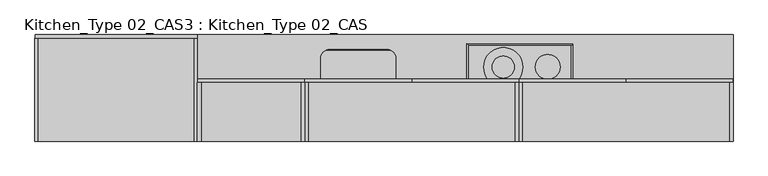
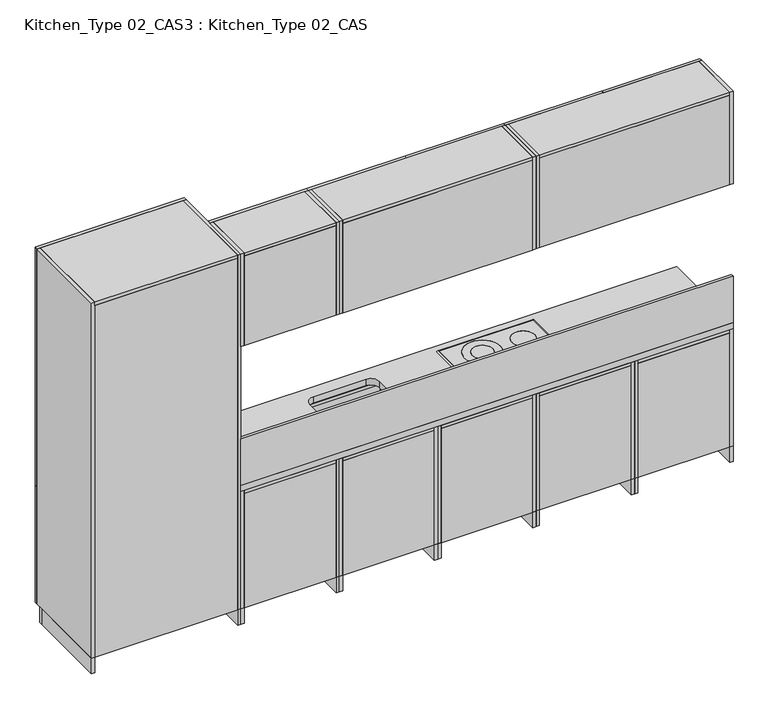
"""IFC4 building model written with IfcOpenShell, lengths in millimetres: furniture geometry, Kitchen_Type 02_CAS3 : Kitchen_Type 02_CAS."""

from ifc_helpers import new_model, si_unit, point, frame, frame_2d, origin, origin_with_axes, place, context, project, spatial, polyline, circle_curve, ellipse_curve, trimmed, segment, composite_curve, outline, extrude, source, transform, mapped, element, save
from ifc_brep_helpers import plane_surface, cylinder_surface, advanced_brep


def kitchen_type_02_cas3_kitchen_type_02_cas_20b75632(model_context):
    return source(origin(), model_context, "Body", "SolidModel", [
        advanced_brep(
        [(3018.8951127, -480.560876, 908.0), (2438.8951127, -480.560876, 908.0), (2430.8951127, -488.560876, 900.0), (3026.8951127, -488.560876, 900.0), (3018.8951127, -480.560876, 900.0), (2438.8951127, -480.560876, 900.0), (2438.8951127, -30.560876, 908.0), (2430.8951127, -22.560876, 900.0), (2438.8951127, -30.560876, 900.0), (3018.8951127, -30.560876, 908.0), (3026.8951127, -22.560876, 900.0), (3018.8951127, -30.560876, 900.0)],
        [
            (0, 1),
            (1, 2, ellipse_curve(frame((2438.8951127, -480.560876, 900.0), z_axis=(0.7071067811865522, -0.7071067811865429, 0.0), x_axis=(0.7071067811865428, 0.7071067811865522, 0.0)), 11.3137085, 8.0)),
            (2, 3),
            (3, 0, ellipse_curve(frame((3018.8951127, -480.560876, 900.0), z_axis=(-0.707106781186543, -0.7071067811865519, 0.0), x_axis=(0.7071067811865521, -0.707106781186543, 0.0)), 11.3137085, 8.0)),
            (4, 5),
            (5, 1),
            (0, 4),
            (1, 6),
            (6, 7, ellipse_curve(frame((2438.8951127, -30.560876, 900.0), z_axis=(-0.7071067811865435, -0.7071067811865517, 0.0), x_axis=(0.7071067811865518, -0.7071067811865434, 0.0)), 11.3137085, 8.0)),
            (7, 2),
            (5, 8),
            (8, 6),
            (6, 9),
            (9, 10, ellipse_curve(frame((3018.8951127, -30.560876, 900.0), z_axis=(-0.7071067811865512, 0.7071067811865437, 0.0), x_axis=(-0.7071067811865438, -0.7071067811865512, 0.0)), 11.3137085, 8.0)),
            (10, 7),
            (8, 11),
            (11, 9),
            (10, 3),
            (4, 11),
            (9, 0),
        ],
        [
            cylinder_surface(frame((3018.8951127, -480.560876, 900.0), z_axis=(1.0, 0.0, 0.0), x_axis=(0.0, -1.0, 0.0)), 8.0),
            plane_surface(frame((3018.8951127, -480.560876, 908.0), z_axis=(0.0, 1.0, 0.0), x_axis=(-1.0, 0.0, 0.0))),
            cylinder_surface(frame((2438.8951127, -480.560876, 900.0), z_axis=(0.0, -1.0, 0.0), x_axis=(-1.0, 0.0, 0.0)), 8.0),
            plane_surface(frame((2438.8951127, -480.560876, 908.0), z_axis=(1.0, 0.0, 0.0), x_axis=(0.0, 1.0, 0.0))),
            cylinder_surface(frame((2438.8951127, -30.560876, 900.0), z_axis=(-1.0, 0.0, 0.0), x_axis=(0.0, 1.0, 0.0)), 8.0),
            plane_surface(frame((2438.8951127, -30.560876, 908.0), z_axis=(0.0, -1.0, 0.0), x_axis=(1.0, 0.0, 0.0))),
            plane_surface(frame((3018.8951127, -30.560876, 900.0), z_axis=(0.0, 0.0, -1.0), x_axis=(0.0, -1.0, 0.0))),
            cylinder_surface(frame((3018.8951127, -30.560876, 900.0), z_axis=(0.0, 1.0, 0.0), x_axis=(1.0, 0.0, 0.0)), 8.0),
            plane_surface(frame((3018.8951127, -30.560876, 908.0), z_axis=(-1.0, 0.0, 0.0), x_axis=(0.0, -1.0, 0.0))),
        ],
        [
            (0, [[1, 2, 3, 4]]),
            (1, [[5, 6, -1, 7]]),
            (2, [[8, 9, 10, -2]]),
            (3, [[11, 12, -8, -6]]),
            (4, [[13, 14, 15, -9]]),
            (5, [[16, 17, -13, -12]]),
            (6, [[-3, -10, -15, 18], [-5, 19, -16, -11]]),
            (7, [[20, -4, -18, -14]]),
            (8, [[-19, -7, -20, -17]]),
        ],
    ),
        extrude(outline(polyline([(2438.8951127, -30.560876), (3018.8951127, -30.560876), (3018.8951127, -480.560876), (2438.8951127, -480.560876), (2438.8951127, -30.560876)]), holes=[composite_curve([segment(trimmed(circle_curve(frame_2d((2886.3951127, -153.060876)), 70.0), [point((2956.3951127, -153.060876))], [point((2816.3951127, -153.060876))], True, "CARTESIAN"), True, "CONTINUOUS"), segment(trimmed(circle_curve(frame_2d((2886.3951127, -153.060876)), 70.0), [point((2816.3951127, -153.060876))], [point((2956.3951127, -153.060876))], True, "CARTESIAN"), True, "CONTINUOUS")], self_intersect=False), composite_curve([segment(trimmed(circle_curve(frame_2d((2886.3951127, -363.060876)), 110.0), [point((2996.3951127, -363.060876))], [point((2776.3951127, -363.060876))], True, "CARTESIAN"), True, "CONTINUOUS"), segment(trimmed(circle_curve(frame_2d((2886.3951127, -363.060876)), 110.0), [point((2776.3951127, -363.060876))], [point((2996.3951127, -363.060876))], True, "CARTESIAN"), True, "CONTINUOUS")], self_intersect=False), composite_curve([segment(trimmed(circle_curve(frame_2d((2636.3951127, -153.060876)), 110.0), [point((2746.3951127, -153.060876))], [point((2526.3951127, -153.060876))], True, "CARTESIAN"), True, "CONTINUOUS"), segment(trimmed(circle_curve(frame_2d((2636.3951127, -153.060876)), 110.0), [point((2526.3951127, -153.060876))], [point((2746.3951127, -153.060876))], True, "CARTESIAN"), True, "CONTINUOUS")], self_intersect=False), composite_curve([segment(trimmed(circle_curve(frame_2d((2606.3951127, -363.060876)), 70.0), [point((2676.3951127, -363.060876))], [point((2536.3951127, -363.060876))], True, "CARTESIAN"), True, "CONTINUOUS"), segment(trimmed(circle_curve(frame_2d((2606.3951127, -363.060876)), 70.0), [point((2536.3951127, -363.060876))], [point((2676.3951127, -363.060876))], True, "CARTESIAN"), True, "CONTINUOUS")], self_intersect=False)]), frame((0.0, 0.0, 900.0), z_axis=(0.0, 0.0, 1.0), x_axis=(1.0, 0.0, 0.0)), (0.0, 0.0, 1.0), 8.0),
        extrude(outline(composite_curve([segment(trimmed(circle_curve(frame_2d((2886.3951127, -363.060876)), 62.5), [point((2948.8951127, -363.060876))], [point((2823.8951127, -363.060876))], False, "CARTESIAN"), True, "CONTINUOUS"), segment(trimmed(circle_curve(frame_2d((2886.3951127, -363.060876)), 62.5), [point((2823.8951127, -363.060876))], [point((2948.8951127, -363.060876))], False, "CARTESIAN"), True, "CONTINUOUS")], self_intersect=False)), frame((0.0, 0.0, 900.0), z_axis=(0.0, 0.0, 1.0), x_axis=(1.0, 0.0, 0.0)), (0.0, 0.0, 1.0), 8.0),
        extrude(outline(composite_curve([segment(trimmed(circle_curve(frame_2d((2636.3951127, -153.060876)), 62.5), [point((2698.8951127, -153.060876))], [point((2573.8951127, -153.060876))], False, "CARTESIAN"), True, "CONTINUOUS"), segment(trimmed(circle_curve(frame_2d((2636.3951127, -153.060876)), 62.5), [point((2573.8951127, -153.060876))], [point((2698.8951127, -153.060876))], False, "CARTESIAN"), True, "CONTINUOUS")], self_intersect=False)), frame((0.0, 0.0, 900.0), z_axis=(0.0, 0.0, 1.0), x_axis=(1.0, 0.0, 0.0)), (0.0, 0.0, 1.0), 8.0),
        extrude(outline(composite_curve([segment(trimmed(circle_curve(frame_2d((2886.3951127, -153.060876)), 70.0), [point((2816.3951127, -153.060876))], [point((2956.3951127, -153.060876))], False, "CARTESIAN"), True, "CONTINUOUS"), segment(trimmed(circle_curve(frame_2d((2886.3951127, -153.060876)), 70.0), [point((2956.3951127, -153.060876))], [point((2816.3951127, -153.060876))], False, "CARTESIAN"), True, "CONTINUOUS")], self_intersect=False)), frame((0.0, 0.0, 894.0), z_axis=(0.0, 0.0, 1.0), x_axis=(1.0, 0.0, 0.0)), (0.0, 0.0, 1.0), 14.0),
        extrude(outline(composite_curve([segment(trimmed(circle_curve(frame_2d((2886.3951127, -363.060876)), 110.0), [point((2776.3951127, -363.060876))], [point((2996.3951127, -363.060876))], False, "CARTESIAN"), True, "CONTINUOUS"), segment(trimmed(circle_curve(frame_2d((2886.3951127, -363.060876)), 110.0), [point((2996.3951127, -363.060876))], [point((2776.3951127, -363.060876))], False, "CARTESIAN"), True, "CONTINUOUS")], self_intersect=False), holes=[composite_curve([segment(trimmed(circle_curve(frame_2d((2886.3951127, -363.060876)), 62.5), [point((2823.8951127, -363.060876))], [point((2948.8951127, -363.060876))], True, "CARTESIAN"), True, "CONTINUOUS"), segment(trimmed(circle_curve(frame_2d((2886.3951127, -363.060876)), 62.5), [point((2948.8951127, -363.060876))], [point((2823.8951127, -363.060876))], True, "CARTESIAN"), True, "CONTINUOUS")], self_intersect=False)]), frame((0.0, 0.0, 894.0), z_axis=(0.0, 0.0, 1.0), x_axis=(1.0, 0.0, 0.0)), (0.0, 0.0, 1.0), 14.0),
        extrude(outline(composite_curve([segment(trimmed(circle_curve(frame_2d((2636.3951127, -153.060876)), 110.0), [point((2526.3951127, -153.060876))], [point((2746.3951127, -153.060876))], False, "CARTESIAN"), True, "CONTINUOUS"), segment(trimmed(circle_curve(frame_2d((2636.3951127, -153.060876)), 110.0), [point((2746.3951127, -153.060876))], [point((2526.3951127, -153.060876))], False, "CARTESIAN"), True, "CONTINUOUS")], self_intersect=False), holes=[composite_curve([segment(trimmed(circle_curve(frame_2d((2636.3951127, -153.060876)), 62.5), [point((2573.8951127, -153.060876))], [point((2698.8951127, -153.060876))], True, "CARTESIAN"), True, "CONTINUOUS"), segment(trimmed(circle_curve(frame_2d((2636.3951127, -153.060876)), 62.5), [point((2698.8951127, -153.060876))], [point((2573.8951127, -153.060876))], True, "CARTESIAN"), True, "CONTINUOUS")], self_intersect=False)]), frame((0.0, 0.0, 894.0), z_axis=(0.0, 0.0, 1.0), x_axis=(1.0, 0.0, 0.0)), (0.0, 0.0, 1.0), 14.0),
        extrude(outline(composite_curve([segment(trimmed(circle_curve(frame_2d((2606.3951127, -363.060876)), 70.0), [point((2536.3951127, -363.060876))], [point((2676.3951127, -363.060876))], False, "CARTESIAN"), True, "CONTINUOUS"), segment(trimmed(circle_curve(frame_2d((2606.3951127, -363.060876)), 70.0), [point((2676.3951127, -363.060876))], [point((2536.3951127, -363.060876))], False, "CARTESIAN"), True, "CONTINUOUS")], self_intersect=False)), frame((0.0, 0.0, 894.0), z_axis=(0.0, 0.0, 1.0), x_axis=(1.0, 0.0, 0.0)), (0.0, 0.0, 1.0), 14.0),
        extrude(outline(polyline([(1517.0, -221.960876), (1517.0, -241.960876), (916.0, -241.960876), (916.0, -221.960876), (1517.0, -221.960876)])), frame((0.0, 0.0, 1800.0), z_axis=(0.0, 0.0, 1.0), x_axis=(1.0, 0.0, 0.0)), (0.0, 0.0, 1.0), 599.0),
        extrude(outline(polyline([(1498.0, -571.960876), (1498.0, -241.960876), (1518.0, -241.960876), (1518.0, -571.960876), (1498.0, -571.960876)])), frame((0.0, 0.0, 1800.0), z_axis=(0.0, 0.0, 1.0), x_axis=(1.0, 0.0, 0.0)), (0.0, 0.0, 1.0), 600.0),
        extrude(outline(polyline([(915.0, -571.960876), (915.0, -241.960876), (935.0, -241.960876), (935.0, -571.960876), (915.0, -571.960876)])), frame((0.0, 0.0, 1800.0), z_axis=(0.0, 0.0, 1.0), x_axis=(1.0, 0.0, 0.0)), (0.0, 0.0, 1.0), 600.0),
        extrude(outline(polyline([(1498.0, -551.960876), (1498.0, -571.960876), (935.0, -571.960876), (935.0, -551.960876), (1498.0, -551.960876)])), frame((0.0, 0.0, 1800.0), z_axis=(0.0, 0.0, 1.0), x_axis=(1.0, 0.0, 0.0)), (0.0, 0.0, 1.0), 580.0),
        extrude(outline(polyline([(1498.0, -551.960876), (935.0, -551.960876), (935.0, -241.960876), (1498.0, -241.960876), (1498.0, -551.960876)])), frame((0.0, 0.0, 1800.0), z_axis=(0.0, 0.0, 1.0), x_axis=(1.0, 0.0, 0.0)), (0.0, 0.0, 1.0), 20.0),
        extrude(outline(polyline([(1498.0, -571.960876), (935.0, -571.960876), (935.0, -241.960876), (1498.0, -241.960876), (1498.0, -571.960876)])), frame((0.0, 0.0, 2380.0), z_axis=(0.0, 0.0, 1.0), x_axis=(1.0, 0.0, 0.0)), (0.0, 0.0, 1.0), 20.0),
        extrude(outline(polyline([(1519.0, -221.960876), (2120.0, -221.960876), (2120.0, -241.960876), (1519.0, -241.960876), (1519.0, -221.960876)])), frame((0.0, 0.0, 1800.0), z_axis=(0.0, 0.0, 1.0), x_axis=(1.0, 0.0, 0.0)), (0.0, 0.0, 1.0), 599.0),
        extrude(outline(polyline([(2723.0, -221.960876), (2723.0, -241.960876), (2122.0, -241.960876), (2122.0, -221.960876), (2723.0, -221.960876)])), frame((0.0, 0.0, 1800.0), z_axis=(0.0, 0.0, 1.0), x_axis=(1.0, 0.0, 0.0)), (0.0, 0.0, 1.0), 599.0),
        extrude(outline(polyline([(2704.0, -571.960876), (2704.0, -241.960876), (2724.0, -241.960876), (2724.0, -571.960876), (2704.0, -571.960876)])), frame((0.0, 0.0, 1800.0), z_axis=(0.0, 0.0, 1.0), x_axis=(1.0, 0.0, 0.0)), (0.0, 0.0, 1.0), 600.0),
        extrude(outline(polyline([(1518.0, -571.960876), (1518.0, -241.960876), (1538.0, -241.960876), (1538.0, -571.960876), (1518.0, -571.960876)])), frame((0.0, 0.0, 1800.0), z_axis=(0.0, 0.0, 1.0), x_axis=(1.0, 0.0, 0.0)), (0.0, 0.0, 1.0), 600.0),
        extrude(outline(polyline([(2704.0, -551.960876), (2704.0, -571.960876), (1538.0, -571.960876), (1538.0, -551.960876), (2704.0, -551.960876)])), frame((0.0, 0.0, 1800.0), z_axis=(0.0, 0.0, 1.0), x_axis=(1.0, 0.0, 0.0)), (0.0, 0.0, 1.0), 580.0),
        extrude(outline(polyline([(2704.0, -551.960876), (1538.0, -551.960876), (1538.0, -241.960876), (2704.0, -241.960876), (2704.0, -551.960876)])), frame((0.0, 0.0, 1800.0), z_axis=(0.0, 0.0, 1.0), x_axis=(1.0, 0.0, 0.0)), (0.0, 0.0, 1.0), 20.0),
        extrude(outline(polyline([(2704.0, -571.960876), (1538.0, -571.960876), (1538.0, -241.960876), (2704.0, -241.960876), (2704.0, -571.960876)])), frame((0.0, 0.0, 2380.0), z_axis=(0.0, 0.0, 1.0), x_axis=(1.0, 0.0, 0.0)), (0.0, 0.0, 1.0), 20.0),
        extrude(outline(polyline([(2754.0, -551.960876), (2754.0, 8.039124), (3297.0, 8.039124), (3297.0, -551.960876), (2754.0, -551.960876)])), frame((0.0, 0.0, 390.0), z_axis=(0.0, 0.0, 1.0), x_axis=(1.0, 0.0, 0.0)), (0.0, 0.0, 1.0), 20.0),
        extrude(outline(polyline([(2725.0, 28.039124), (3326.0, 28.039124), (3326.0, 8.039124), (2725.0, 8.039124), (2725.0, 28.039124)])), frame((0.0, 0.0, 100.0), z_axis=(0.0, 0.0, 1.0), x_axis=(1.0, 0.0, 0.0)), (0.0, 0.0, 1.0), 550.0),
        extrude(outline(polyline([(2725.0, 28.039124), (3326.0, 28.039124), (3326.0, 8.039124), (2725.0, 8.039124), (2725.0, 28.039124)])), frame((0.0, 0.0, 650.0), z_axis=(0.0, 0.0, 1.0), x_axis=(1.0, 0.0, 0.0)), (0.0, 0.0, 1.0), 200.0),
        extrude(outline(polyline([(3327.0, -41.960876), (3327.0, -571.960876), (3307.0, -571.960876), (3307.0, -61.960876), (2744.0, -61.960876), (2744.0, -571.960876), (2724.0, -571.960876), (2724.0, -41.960876), (3327.0, -41.960876)])), origin_with_axes(), (0.0, 0.0, 1.0), 100.0),
        extrude(outline(polyline([(2744.0, -571.960876), (2724.0, -571.960876), (2724.0, 8.039124), (2744.0, 8.039124), (2744.0, -571.960876)])), frame((0.0, 0.0, 100.0), z_axis=(0.0, 0.0, 1.0), x_axis=(1.0, 0.0, 0.0)), (0.0, 0.0, 1.0), 760.0),
        extrude(outline(polyline([(3327.0, -571.960876), (3307.0, -571.960876), (3307.0, 8.039124), (3327.0, 8.039124), (3327.0, -571.960876)])), frame((0.0, 0.0, 100.0), z_axis=(0.0, 0.0, 1.0), x_axis=(1.0, 0.0, 0.0)), (0.0, 0.0, 1.0), 760.0),
        extrude(outline(polyline([(2744.0, -551.960876), (3307.0, -551.960876), (3307.0, -571.960876), (2744.0, -571.960876), (2744.0, -551.960876)])), frame((0.0, 0.0, 100.0), z_axis=(0.0, 0.0, 1.0), x_axis=(1.0, 0.0, 0.0)), (0.0, 0.0, 1.0), 740.0),
        extrude(outline(polyline([(2744.0, -551.960876), (2744.0, 8.039124), (3307.0, 8.039124), (3307.0, -551.960876), (2744.0, -551.960876)])), frame((0.0, 0.0, 100.0), z_axis=(0.0, 0.0, 1.0), x_axis=(1.0, 0.0, 0.0)), (0.0, 0.0, 1.0), 20.0),
        extrude(outline(polyline([(2744.0, -571.960876), (2744.0, -506.960876), (3307.0, -506.960876), (3307.0, -571.960876), (2744.0, -571.960876)])), frame((0.0, 0.0, 840.0), z_axis=(0.0, 0.0, 1.0), x_axis=(1.0, 0.0, 0.0)), (0.0, 0.0, 1.0), 20.0),
        extrude(outline(polyline([(3307.0, -56.960876), (2744.0, -56.960876), (2744.0, 8.039124), (3307.0, 8.039124), (3307.0, -56.960876)])), frame((0.0, 0.0, 840.0), z_axis=(0.0, 0.0, 1.0), x_axis=(1.0, 0.0, 0.0)), (0.0, 0.0, 1.0), 20.0),
        extrude(outline(polyline([(2725.0, -221.960876), (3326.0, -221.960876), (3326.0, -241.960876), (2725.0, -241.960876), (2725.0, -221.960876)])), frame((0.0, 0.0, 1800.0), z_axis=(0.0, 0.0, 1.0), x_axis=(1.0, 0.0, 0.0)), (0.0, 0.0, 1.0), 599.0),
        extrude(outline(polyline([(3929.0, -221.960876), (3929.0, -241.960876), (3328.0, -241.960876), (3328.0, -221.960876), (3929.0, -221.960876)])), frame((0.0, 0.0, 1800.0), z_axis=(0.0, 0.0, 1.0), x_axis=(1.0, 0.0, 0.0)), (0.0, 0.0, 1.0), 599.0),
        extrude(outline(polyline([(3910.0, -571.960876), (3910.0, -241.960876), (3930.0, -241.960876), (3930.0, -571.960876), (3910.0, -571.960876)])), frame((0.0, 0.0, 1800.0), z_axis=(0.0, 0.0, 1.0), x_axis=(1.0, 0.0, 0.0)), (0.0, 0.0, 1.0), 600.0),
        extrude(outline(polyline([(2724.0, -571.960876), (2724.0, -241.960876), (2744.0, -241.960876), (2744.0, -571.960876), (2724.0, -571.960876)])), frame((0.0, 0.0, 1800.0), z_axis=(0.0, 0.0, 1.0), x_axis=(1.0, 0.0, 0.0)), (0.0, 0.0, 1.0), 600.0),
        extrude(outline(polyline([(3910.0, -551.960876), (3910.0, -571.960876), (2744.0, -571.960876), (2744.0, -551.960876), (3910.0, -551.960876)])), frame((0.0, 0.0, 1800.0), z_axis=(0.0, 0.0, 1.0), x_axis=(1.0, 0.0, 0.0)), (0.0, 0.0, 1.0), 580.0),
        extrude(outline(polyline([(3910.0, -551.960876), (2744.0, -551.960876), (2744.0, -241.960876), (3910.0, -241.960876), (3910.0, -551.960876)])), frame((0.0, 0.0, 1800.0), z_axis=(0.0, 0.0, 1.0), x_axis=(1.0, 0.0, 0.0)), (0.0, 0.0, 1.0), 20.0),
        extrude(outline(polyline([(3910.0, -571.960876), (2744.0, -571.960876), (2744.0, -241.960876), (3910.0, -241.960876), (3910.0, -571.960876)])), frame((0.0, 0.0, 2380.0), z_axis=(0.0, 0.0, 1.0), x_axis=(1.0, 0.0, 0.0)), (0.0, 0.0, 1.0), 20.0),
        extrude(outline(polyline([(3930.0, -551.960876), (3930.0, -571.960876), (915.0, -571.960876), (915.0, -551.960876), (3930.0, -551.960876)])), frame((0.0, 0.0, 900.0), z_axis=(0.0, 0.0, 1.0), x_axis=(1.0, 0.0, 0.0)), (0.0, 0.0, 1.0), 300.0),
        extrude(outline(polyline([(3930.0, -21.960876), (3930.0, -41.960876), (0.0, -41.960876), (0.0, -21.960876), (3930.0, -21.960876)])), origin_with_axes(), (0.0, 0.0, 1.0), 100.0),
        extrude(outline(polyline([(3930.0, -571.960876), (915.0, -571.960876), (915.0, 28.039124), (3930.0, 28.039124), (3930.0, -571.960876)]), holes=[composite_curve([segment(polyline([(1658.4, -375.9014576), (1980.6, -375.9014576)]), True, "CONTINUOUS"), segment(trimmed(circle_curve(frame_2d((1980.6, -325.1014576)), 50.8), [point((1980.6, -375.9014576))], [point((2031.4, -325.1014576))], True, "CARTESIAN"), True, "CONTINUOUS"), segment(polyline([(2031.4, -325.1014576), (2031.4, -104.7303748)]), True, "CONTINUOUS"), segment(trimmed(circle_curve(frame_2d((1980.6, -104.7303748)), 50.8), [point((2031.4, -104.7303748))], [point((1980.6, -53.9303748))], True, "CARTESIAN"), True, "CONTINUOUS"), segment(polyline([(1980.6, -53.9303748), (1658.4, -53.9303748)]), True, "CONTINUOUS"), segment(trimmed(circle_curve(frame_2d((1658.4, -104.7303748)), 50.8), [point((1658.4, -53.9303748))], [point((1607.6, -104.7303748))], True, "CARTESIAN"), True, "CONTINUOUS"), segment(polyline([(1607.6, -104.7303748), (1607.6, -325.1014576)]), True, "CONTINUOUS"), segment(trimmed(circle_curve(frame_2d((1658.4, -325.1014576)), 50.8), [point((1607.6, -325.1014576))], [point((1658.4, -375.9014576))], True, "CARTESIAN"), True, "CONTINUOUS")], self_intersect=False)]), frame((0.0, 0.0, 860.0), z_axis=(0.0, 0.0, 1.0), x_axis=(1.0, 0.0, 0.0)), (0.0, 0.0, 1.0), 40.0),
        extrude(outline(polyline([(2120.0, 28.039124), (2120.0, 8.039124), (1519.0, 8.039124), (1519.0, 28.039124), (2120.0, 28.039124)])), frame((0.0, 0.0, 100.0), z_axis=(0.0, 0.0, 1.0), x_axis=(1.0, 0.0, 0.0)), (0.0, 0.0, 1.0), 750.0),
        extrude(outline(polyline([(1518.0, -41.960876), (2121.0, -41.960876), (2121.0, -571.960876), (2101.0, -571.960876), (2101.0, -61.960876), (1538.0, -61.960876), (1538.0, -571.960876), (1518.0, -571.960876), (1518.0, -41.960876)])), origin_with_axes(), (0.0, 0.0, 1.0), 100.0),
        extrude(outline(polyline([(2101.0, -571.960876), (2101.0, 8.039124), (2121.0, 8.039124), (2121.0, -571.960876), (2101.0, -571.960876)])), frame((0.0, 0.0, 100.0), z_axis=(0.0, 0.0, 1.0), x_axis=(1.0, 0.0, 0.0)), (0.0, 0.0, 1.0), 760.0),
        extrude(outline(polyline([(1518.0, -571.960876), (1518.0, 8.039124), (1538.0, 8.039124), (1538.0, -571.960876), (1518.0, -571.960876)])), frame((0.0, 0.0, 100.0), z_axis=(0.0, 0.0, 1.0), x_axis=(1.0, 0.0, 0.0)), (0.0, 0.0, 1.0), 760.0),
        extrude(outline(polyline([(2101.0, -551.960876), (2101.0, -571.960876), (1538.0, -571.960876), (1538.0, -551.960876), (2101.0, -551.960876)])), frame((0.0, 0.0, 100.0), z_axis=(0.0, 0.0, 1.0), x_axis=(1.0, 0.0, 0.0)), (0.0, 0.0, 1.0), 740.0),
        extrude(outline(polyline([(2101.0, -551.960876), (1538.0, -551.960876), (1538.0, 8.039124), (2101.0, 8.039124), (2101.0, -551.960876)])), frame((0.0, 0.0, 100.0), z_axis=(0.0, 0.0, 1.0), x_axis=(1.0, 0.0, 0.0)), (0.0, 0.0, 1.0), 20.0),
        extrude(outline(polyline([(2101.0, -571.960876), (1538.0, -571.960876), (1538.0, -506.960876), (2101.0, -506.960876), (2101.0, -571.960876)])), frame((0.0, 0.0, 840.0), z_axis=(0.0, 0.0, 1.0), x_axis=(1.0, 0.0, 0.0)), (0.0, 0.0, 1.0), 20.0),
        extrude(outline(polyline([(1538.0, -56.960876), (1538.0, 8.039124), (2101.0, 8.039124), (2101.0, -56.960876), (1538.0, -56.960876)])), frame((0.0, 0.0, 840.0), z_axis=(0.0, 0.0, 1.0), x_axis=(1.0, 0.0, 0.0)), (0.0, 0.0, 1.0), 20.0),
        extrude(outline(polyline([(1517.0, 28.039124), (1517.0, 8.039124), (916.0, 8.039124), (916.0, 28.039124), (1517.0, 28.039124)])), frame((0.0, 0.0, 100.0), z_axis=(0.0, 0.0, 1.0), x_axis=(1.0, 0.0, 0.0)), (0.0, 0.0, 1.0), 750.0),
        extrude(outline(polyline([(915.0, -41.960876), (1518.0, -41.960876), (1518.0, -571.960876), (1498.0, -571.960876), (1498.0, -61.960876), (935.0, -61.960876), (935.0, -571.960876), (915.0, -571.960876), (915.0, -41.960876)])), origin_with_axes(), (0.0, 0.0, 1.0), 100.0),
        extrude(outline(polyline([(1498.0, -551.960876), (935.0, -551.960876), (935.0, 8.039124), (1498.0, 8.039124), (1498.0, -551.960876)])), frame((0.0, 0.0, 100.0), z_axis=(0.0, 0.0, 1.0), x_axis=(1.0, 0.0, 0.0)), (0.0, 0.0, 1.0), 20.0),
        extrude(outline(polyline([(1498.0, -571.960876), (935.0, -571.960876), (935.0, -506.960876), (1498.0, -506.960876), (1498.0, -571.960876)])), frame((0.0, 0.0, 840.0), z_axis=(0.0, 0.0, 1.0), x_axis=(1.0, 0.0, 0.0)), (0.0, 0.0, 1.0), 20.0),
        extrude(outline(polyline([(935.0, -56.960876), (935.0, 8.039124), (1498.0, 8.039124), (1498.0, -56.960876), (935.0, -56.960876)])), frame((0.0, 0.0, 840.0), z_axis=(0.0, 0.0, 1.0), x_axis=(1.0, 0.0, 0.0)), (0.0, 0.0, 1.0), 20.0),
        extrude(outline(polyline([(1498.0, -571.960876), (1498.0, 8.039124), (1518.0, 8.039124), (1518.0, -571.960876), (1498.0, -571.960876)])), frame((0.0, 0.0, 100.0), z_axis=(0.0, 0.0, 1.0), x_axis=(1.0, 0.0, 0.0)), (0.0, 0.0, 1.0), 760.0),
        extrude(outline(polyline([(915.0, -571.960876), (915.0, 8.039124), (935.0, 8.039124), (935.0, -571.960876), (915.0, -571.960876)])), frame((0.0, 0.0, 100.0), z_axis=(0.0, 0.0, 1.0), x_axis=(1.0, 0.0, 0.0)), (0.0, 0.0, 1.0), 760.0),
        extrude(outline(polyline([(1498.0, -551.960876), (1498.0, -571.960876), (935.0, -571.960876), (935.0, -551.960876), (1498.0, -551.960876)])), frame((0.0, 0.0, 100.0), z_axis=(0.0, 0.0, 1.0), x_axis=(1.0, 0.0, 0.0)), (0.0, 0.0, 1.0), 740.0),
        extrude(outline(polyline([(30.0, -551.960876), (30.0, 8.039124), (885.0, 8.039124), (885.0, -551.960876), (30.0, -551.960876)])), frame((0.0, 0.0, 1990.0), z_axis=(0.0, 0.0, 1.0), x_axis=(1.0, 0.0, 0.0)), (0.0, 0.0, 1.0), 20.0),
        extrude(outline(polyline([(30.0, -551.960876), (30.0, 8.039124), (885.0, 8.039124), (885.0, -551.960876), (30.0, -551.960876)])), frame((0.0, 0.0, 1690.0), z_axis=(0.0, 0.0, 1.0), x_axis=(1.0, 0.0, 0.0)), (0.0, 0.0, 1.0), 20.0),
        extrude(outline(polyline([(30.0, -551.960876), (30.0, 8.039124), (885.0, 8.039124), (885.0, -551.960876), (30.0, -551.960876)])), frame((0.0, 0.0, 1390.0), z_axis=(0.0, 0.0, 1.0), x_axis=(1.0, 0.0, 0.0)), (0.0, 0.0, 1.0), 20.0),
        extrude(outline(polyline([(30.0, -551.960876), (30.0, 8.039124), (885.0, 8.039124), (885.0, -551.960876), (30.0, -551.960876)])), frame((0.0, 0.0, 1090.0), z_axis=(0.0, 0.0, 1.0), x_axis=(1.0, 0.0, 0.0)), (0.0, 0.0, 1.0), 20.0),
        extrude(outline(polyline([(20.0, -551.960876), (20.0, 8.039124), (895.0, 8.039124), (895.0, -551.960876), (20.0, -551.960876)])), frame((0.0, 0.0, 790.0), z_axis=(0.0, 0.0, 1.0), x_axis=(1.0, 0.0, 0.0)), (0.0, 0.0, 1.0), 20.0),
        extrude(outline(polyline([(1.0, 28.039124), (914.0, 28.039124), (914.0, 8.039124), (1.0, 8.039124), (1.0, 28.039124)])), frame((0.0, 0.0, 860.0), z_axis=(0.0, 0.0, 1.0), x_axis=(1.0, 0.0, 0.0)), (0.0, 0.0, 1.0), 1540.0),
        extrude(outline(polyline([(1.0, 28.039124), (914.0, 28.039124), (914.0, 8.039124), (1.0, 8.039124), (1.0, 28.039124)])), frame((0.0, 0.0, 100.0), z_axis=(0.0, 0.0, 1.0), x_axis=(1.0, 0.0, 0.0)), (0.0, 0.0, 1.0), 760.0),
        extrude(outline(polyline([(915.0, -41.960876), (915.0, -571.960876), (895.0, -571.960876), (895.0, -61.960876), (20.0, -61.960876), (20.0, -571.960876), (0.0, -571.960876), (0.0, -41.960876), (915.0, -41.960876)])), origin_with_axes(), (0.0, 0.0, 1.0), 100.0),
        extrude(outline(polyline([(20.0, -551.960876), (20.0, 8.039124), (895.0, 8.039124), (895.0, -551.960876), (20.0, -551.960876)])), frame((0.0, 0.0, 100.0), z_axis=(0.0, 0.0, 1.0), x_axis=(1.0, 0.0, 0.0)), (0.0, 0.0, 1.0), 20.0),
        extrude(outline(polyline([(20.0, -571.960876), (20.0, 8.039124), (895.0, 8.039124), (895.0, -571.960876), (20.0, -571.960876)])), frame((0.0, 0.0, 2380.0), z_axis=(0.0, 0.0, 1.0), x_axis=(1.0, 0.0, 0.0)), (0.0, 0.0, 1.0), 20.0),
        extrude(outline(polyline([(20.0, -571.960876), (0.0, -571.960876), (0.0, 8.039124), (20.0, 8.039124), (20.0, -571.960876)])), frame((0.0, 0.0, 100.0), z_axis=(0.0, 0.0, 1.0), x_axis=(1.0, 0.0, 0.0)), (0.0, 0.0, 1.0), 2300.0),
        extrude(outline(polyline([(915.0, -571.960876), (895.0, -571.960876), (895.0, 8.039124), (915.0, 8.039124), (915.0, -571.960876)])), frame((0.0, 0.0, 100.0), z_axis=(0.0, 0.0, 1.0), x_axis=(1.0, 0.0, 0.0)), (0.0, 0.0, 1.0), 2300.0),
        extrude(outline(polyline([(20.0, -551.960876), (895.0, -551.960876), (895.0, -571.960876), (20.0, -571.960876), (20.0, -551.960876)])), frame((0.0, 0.0, 100.0), z_axis=(0.0, 0.0, 1.0), x_axis=(1.0, 0.0, 0.0)), (0.0, 0.0, 1.0), 2280.0),
        extrude(outline(polyline([(3929.0, 28.039124), (3929.0, 8.039124), (3328.0, 8.039124), (3328.0, 28.039124), (3929.0, 28.039124)])), frame((0.0, 0.0, 475.5), z_axis=(0.0, 0.0, 1.0), x_axis=(1.0, 0.0, 0.0)), (0.0, 0.0, 1.0), 374.5),
        extrude(outline(polyline([(3929.0, 28.039124), (3929.0, 8.039124), (3328.0, 8.039124), (3328.0, 28.039124), (3929.0, 28.039124)])), frame((0.0, 0.0, 100.0), z_axis=(0.0, 0.0, 1.0), x_axis=(1.0, 0.0, 0.0)), (0.0, 0.0, 1.0), 374.5),
        extrude(outline(polyline([(3327.0, -41.960876), (3930.0, -41.960876), (3930.0, -571.960876), (3910.0, -571.960876), (3910.0, -61.960876), (3347.0, -61.960876), (3347.0, -571.960876), (3327.0, -571.960876), (3327.0, -41.960876)])), origin_with_axes(), (0.0, 0.0, 1.0), 100.0),
        extrude(outline(polyline([(3910.0, -571.960876), (3910.0, 8.039124), (3930.0, 8.039124), (3930.0, -571.960876), (3910.0, -571.960876)])), frame((0.0, 0.0, 100.0), z_axis=(0.0, 0.0, 1.0), x_axis=(1.0, 0.0, 0.0)), (0.0, 0.0, 1.0), 760.0),
        extrude(outline(polyline([(3327.0, -571.960876), (3327.0, 8.039124), (3347.0, 8.039124), (3347.0, -571.960876), (3327.0, -571.960876)])), frame((0.0, 0.0, 100.0), z_axis=(0.0, 0.0, 1.0), x_axis=(1.0, 0.0, 0.0)), (0.0, 0.0, 1.0), 760.0),
        extrude(outline(polyline([(3910.0, -551.960876), (3910.0, -571.960876), (3347.0, -571.960876), (3347.0, -551.960876), (3910.0, -551.960876)])), frame((0.0, 0.0, 100.0), z_axis=(0.0, 0.0, 1.0), x_axis=(1.0, 0.0, 0.0)), (0.0, 0.0, 1.0), 740.0),
        extrude(outline(polyline([(3910.0, -551.960876), (3347.0, -551.960876), (3347.0, 8.039124), (3910.0, 8.039124), (3910.0, -551.960876)])), frame((0.0, 0.0, 100.0), z_axis=(0.0, 0.0, 1.0), x_axis=(1.0, 0.0, 0.0)), (0.0, 0.0, 1.0), 20.0),
        extrude(outline(polyline([(3910.0, -571.960876), (3347.0, -571.960876), (3347.0, -506.960876), (3910.0, -506.960876), (3910.0, -571.960876)])), frame((0.0, 0.0, 840.0), z_axis=(0.0, 0.0, 1.0), x_axis=(1.0, 0.0, 0.0)), (0.0, 0.0, 1.0), 20.0),
        extrude(outline(polyline([(3347.0, -56.960876), (3347.0, 8.039124), (3910.0, 8.039124), (3910.0, -56.960876), (3347.0, -56.960876)])), frame((0.0, 0.0, 840.0), z_axis=(0.0, 0.0, 1.0), x_axis=(1.0, 0.0, 0.0)), (0.0, 0.0, 1.0), 20.0),
        extrude(outline(polyline([(2723.0, 28.039124), (2723.0, 8.039124), (2122.0, 8.039124), (2122.0, 28.039124), (2723.0, 28.039124)])), frame((0.0, 0.0, 651.0), z_axis=(0.0, 0.0, 1.0), x_axis=(1.0, 0.0, 0.0)), (0.0, 0.0, 1.0), 199.0),
        extrude(outline(polyline([(2723.0, 28.039124), (2723.0, 8.039124), (2122.0, 8.039124), (2122.0, 28.039124), (2723.0, 28.039124)])), frame((0.0, 0.0, 375.5), z_axis=(0.0, 0.0, 1.0), x_axis=(1.0, 0.0, 0.0)), (0.0, 0.0, 1.0), 274.5),
        extrude(outline(polyline([(2723.0, 28.039124), (2723.0, 8.039124), (2122.0, 8.039124), (2122.0, 28.039124), (2723.0, 28.039124)])), frame((0.0, 0.0, 100.0), z_axis=(0.0, 0.0, 1.0), x_axis=(1.0, 0.0, 0.0)), (0.0, 0.0, 1.0), 274.5),
        extrude(outline(polyline([(2121.0, -41.960876), (2724.0, -41.960876), (2724.0, -571.960876), (2704.0, -571.960876), (2704.0, -61.960876), (2141.0, -61.960876), (2141.0, -571.960876), (2121.0, -571.960876), (2121.0, -41.960876)])), origin_with_axes(), (0.0, 0.0, 1.0), 100.0),
        extrude(outline(polyline([(2704.0, -571.960876), (2704.0, 8.039124), (2724.0, 8.039124), (2724.0, -571.960876), (2704.0, -571.960876)])), frame((0.0, 0.0, 100.0), z_axis=(0.0, 0.0, 1.0), x_axis=(1.0, 0.0, 0.0)), (0.0, 0.0, 1.0), 760.0),
        extrude(outline(polyline([(2121.0, -571.960876), (2121.0, 8.039124), (2141.0, 8.039124), (2141.0, -571.960876), (2121.0, -571.960876)])), frame((0.0, 0.0, 100.0), z_axis=(0.0, 0.0, 1.0), x_axis=(1.0, 0.0, 0.0)), (0.0, 0.0, 1.0), 760.0),
        extrude(outline(polyline([(2704.0, -551.960876), (2704.0, -571.960876), (2141.0, -571.960876), (2141.0, -551.960876), (2704.0, -551.960876)])), frame((0.0, 0.0, 100.0), z_axis=(0.0, 0.0, 1.0), x_axis=(1.0, 0.0, 0.0)), (0.0, 0.0, 1.0), 740.0),
        extrude(outline(polyline([(2704.0, -551.960876), (2141.0, -551.960876), (2141.0, 8.039124), (2704.0, 8.039124), (2704.0, -551.960876)])), frame((0.0, 0.0, 100.0), z_axis=(0.0, 0.0, 1.0), x_axis=(1.0, 0.0, 0.0)), (0.0, 0.0, 1.0), 20.0),
        extrude(outline(polyline([(2704.0, -571.960876), (2141.0, -571.960876), (2141.0, -506.960876), (2704.0, -506.960876), (2704.0, -571.960876)])), frame((0.0, 0.0, 840.0), z_axis=(0.0, 0.0, 1.0), x_axis=(1.0, 0.0, 0.0)), (0.0, 0.0, 1.0), 20.0),
        extrude(outline(polyline([(2141.0, -56.960876), (2141.0, 8.039124), (2704.0, 8.039124), (2704.0, -56.960876), (2141.0, -56.960876)])), frame((0.0, 0.0, 840.0), z_axis=(0.0, 0.0, 1.0), x_axis=(1.0, 0.0, 0.0)), (0.0, 0.0, 1.0), 20.0),
    ])


if __name__ == "__main__":
    model = new_model("IFC4")
    model_context = context("Model", 3, world=origin())
    ifc_project = project(units=[si_unit("LENGTHUNIT", "METRE", prefix="MILLI")], contexts=[model_context])
    site = spatial("IfcSite", under=ifc_project)
    building = spatial("IfcBuilding", under=site)
    placement = place(None, origin())
    kitchen_type_02_cas3_kitchen_type_02_cas_shape = kitchen_type_02_cas3_kitchen_type_02_cas_20b75632(model_context)
    element("IfcFurniture", 1, ObjectType="Kitchen_Type 02_CAS3 : Kitchen_Type 02_CAS", at=placement, inside=building, context=model_context, shape_type="MappedRepresentation", body=[
        mapped(kitchen_type_02_cas3_kitchen_type_02_cas_shape, transform((0.0, 0.0, 0.0), x_axis=(1.0, 0.0, 0.0), y_axis=(0.0, 1.0, 0.0), z_axis=(0.0, 0.0, 1.0))),
    ])
    save(model, "model.ifc")
